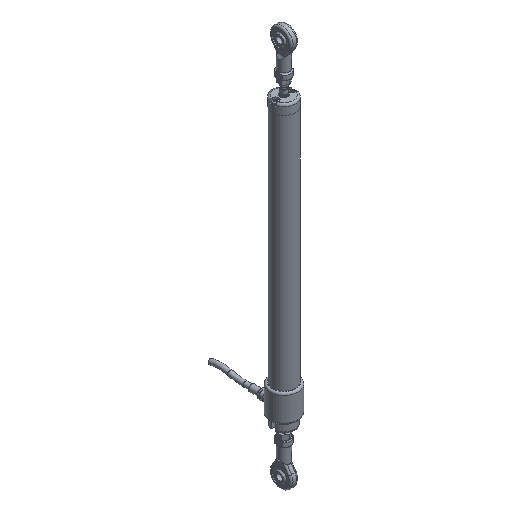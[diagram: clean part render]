
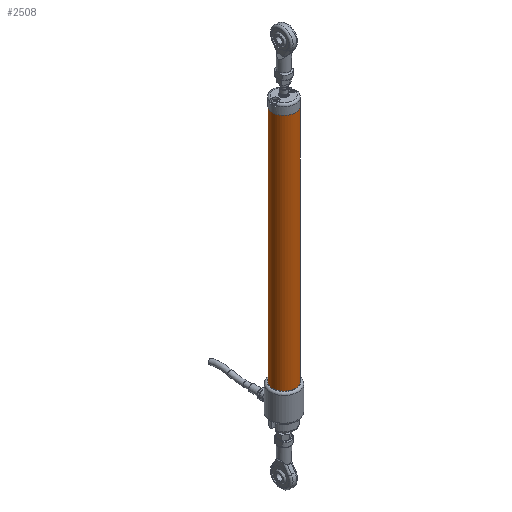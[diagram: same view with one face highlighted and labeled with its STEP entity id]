
A CAD part, isometric view. The second image highlights one B-rep face of the part: STEP entity #2508.
In plain terms, the highlighted cylindrical face has radius 9.5 mm (diameter 19 mm), a full revolution.
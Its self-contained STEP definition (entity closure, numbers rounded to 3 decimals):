
#436=CYLINDRICAL_SURFACE('',#3842,9.5);
#478=ORIENTED_EDGE('',*,*,#1156,.F.);
#479=ORIENTED_EDGE('',*,*,#1155,.T.);
#1155=EDGE_CURVE('',#1494,#1494,#1745,.T.);
#1156=EDGE_CURVE('',#1495,#1495,#1746,.T.);
#1494=VERTEX_POINT('',#5034);
#1495=VERTEX_POINT('',#5037);
#1745=CIRCLE('',#3841,9.5);
#1746=CIRCLE('',#3843,9.5);
#1898=EDGE_LOOP('',(#478));
#1899=EDGE_LOOP('',(#479));
#2152=FACE_BOUND('',#1898,.T.);
#2153=FACE_BOUND('',#1899,.T.);
#2508=ADVANCED_FACE('',(#2152,#2153),#436,.T.);
#3841=AXIS2_PLACEMENT_3D('',#5033,#4189,#4190);
#3842=AXIS2_PLACEMENT_3D('',#5035,#4191,#4192);
#3843=AXIS2_PLACEMENT_3D('',#5036,#4193,#4194);
#4189=DIRECTION('',(1.,0.,0.));
#4190=DIRECTION('',(0.,0.,-1.));
#4191=DIRECTION('',(1.,0.,0.));
#4192=DIRECTION('',(0.,0.,-1.));
#4193=DIRECTION('',(1.,0.,0.));
#4194=DIRECTION('',(0.,0.,-1.));
#5033=CARTESIAN_POINT('',(0.,0.,0.));
#5034=CARTESIAN_POINT('',(0.,0.,-9.5));
#5035=CARTESIAN_POINT('',(209.,0.,0.));
#5036=CARTESIAN_POINT('',(209.,0.,0.));
#5037=CARTESIAN_POINT('',(209.,0.,-9.5));
